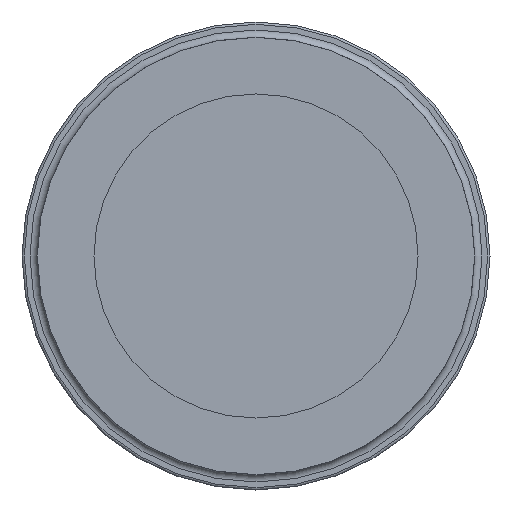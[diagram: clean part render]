
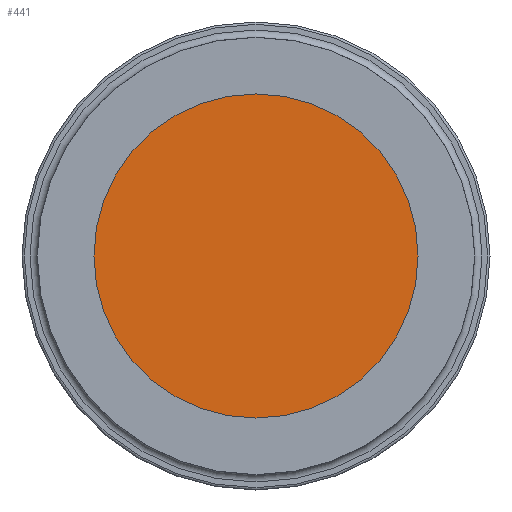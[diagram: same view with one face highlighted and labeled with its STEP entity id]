
A CAD part, left-side view. The second image highlights one B-rep face of the part: STEP entity #441.
In plain terms, the highlighted planar face has unit normal (-1, 0, 0).
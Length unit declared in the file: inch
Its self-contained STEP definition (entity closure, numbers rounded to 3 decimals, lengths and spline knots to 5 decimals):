
#441 = ADVANCED_FACE( '', ( #1012 ), #1013, .F. );
#1012 = FACE_OUTER_BOUND( '', #2198, .T. );
#1013 = PLANE( '', #2199 );
#2198 = EDGE_LOOP( '', ( #4067 ) );
#2199 = AXIS2_PLACEMENT_3D( '', #4068, #4069, #4070 );
#4067 = ORIENTED_EDGE( '', *, *, #5173, .T. );
#4068 = CARTESIAN_POINT( '', ( -0.0245, 0., 0.6925 ) );
#4069 = DIRECTION( '', ( 1., 0., 0. ) );
#4070 = DIRECTION( '', ( 0., 0., -1. ) );
#5173 = EDGE_CURVE( '', #5997, #5997, #5998, .T. );
#5997 = VERTEX_POINT( '', #7355 );
#5998 = CIRCLE( '', #7356, 0.6925 );
#7355 = CARTESIAN_POINT( '', ( -0.0245, 0., 0.6925 ) );
#7356 = AXIS2_PLACEMENT_3D( '', #9515, #9516, #9517 );
#9515 = CARTESIAN_POINT( '', ( -0.0245, 0., 0. ) );
#9516 = DIRECTION( '', ( -1., 0., 0. ) );
#9517 = DIRECTION( '', ( 0., 0., 1. ) );
